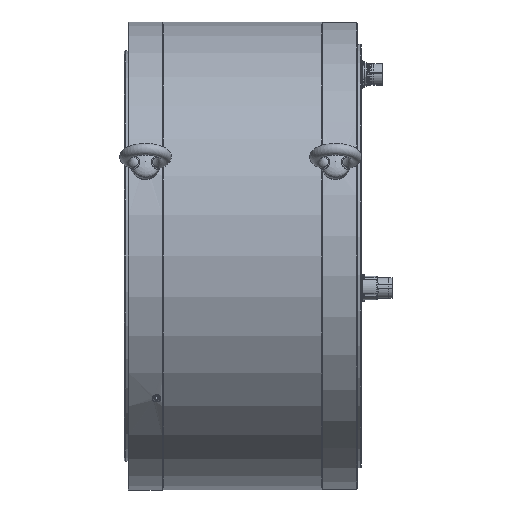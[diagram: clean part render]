
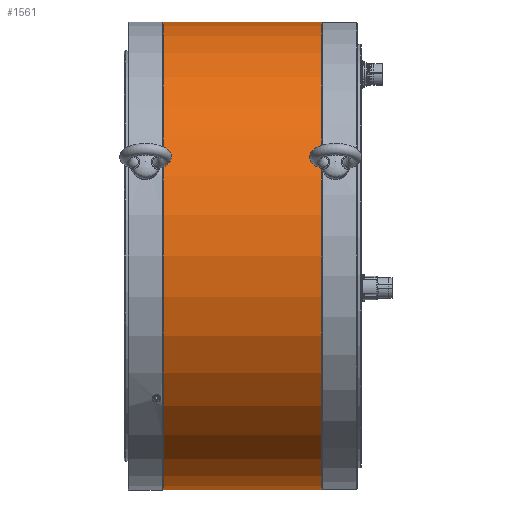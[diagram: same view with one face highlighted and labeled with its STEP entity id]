
A CAD part, front view. The second image highlights one B-rep face of the part: STEP entity #1561.
In plain terms, the highlighted cylindrical face has radius 245 mm (diameter 490 mm), a full revolution.
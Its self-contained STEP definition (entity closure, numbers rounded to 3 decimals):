
#1561 = ADVANCED_FACE( '', ( #3329, #3330 ), #3331, .T. );
#3329 = FACE_OUTER_BOUND( '', #6239, .T. );
#3330 = FACE_OUTER_BOUND( '', #6240, .T. );
#3331 = CYLINDRICAL_SURFACE( '', #6241, 245. );
#6239 = EDGE_LOOP( '', ( #10116 ) );
#6240 = EDGE_LOOP( '', ( #10117 ) );
#6241 = AXIS2_PLACEMENT_3D( '', #10118, #10119, #10120 );
#10116 = ORIENTED_EDGE( '', *, *, #14200, .T. );
#10117 = ORIENTED_EDGE( '', *, *, #14201, .T. );
#10118 = CARTESIAN_POINT( '', ( -60., 0., 0. ) );
#10119 = DIRECTION( '', ( 1., 0., 0. ) );
#10120 = DIRECTION( '', ( 0., 0., 1. ) );
#14200 = EDGE_CURVE( '', #17066, #17066, #17067, .F. );
#14201 = EDGE_CURVE( '', #17068, #17068, #17069, .F. );
#17066 = VERTEX_POINT( '', #20178 );
#17067 = CIRCLE( '', #20179, 245. );
#17068 = VERTEX_POINT( '', #20180 );
#17069 = CIRCLE( '', #20181, 245. );
#20178 = CARTESIAN_POINT( '', ( 0.5, 0., 245. ) );
#20179 = AXIS2_PLACEMENT_3D( '', #23851, #23852, #23853 );
#20180 = CARTESIAN_POINT( '', ( 166.5, 0., -245. ) );
#20181 = AXIS2_PLACEMENT_3D( '', #23854, #23855, #23856 );
#23851 = CARTESIAN_POINT( '', ( 0.5, 0., 0. ) );
#23852 = DIRECTION( '', ( -1., 0., 0. ) );
#23853 = DIRECTION( '', ( 0., 0., 1. ) );
#23854 = CARTESIAN_POINT( '', ( 166.5, 0., 0. ) );
#23855 = DIRECTION( '', ( 1., 0., 0. ) );
#23856 = DIRECTION( '', ( 0., 0., -1. ) );
